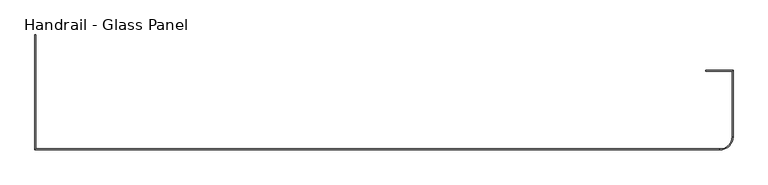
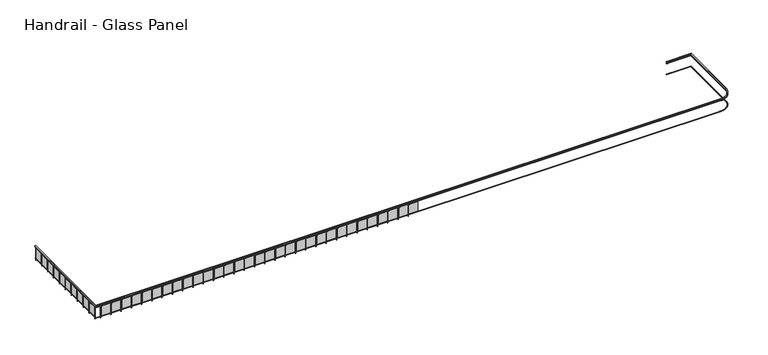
"""IFC4 building model written with IfcOpenShell, lengths in millimetres: railing geometry, Handrail - Glass Panel."""

from ifc_helpers import new_model, si_unit, frame, origin, place, context, project, spatial, polyline, circle_curve, outline, extrude, source, transform, mapped, element, save
from ifc_brep_helpers import plane_surface, cylinder_surface, revolved_surface, advanced_brep


def handrail_glass_panel_15cabfa0(model_context):
    return source(origin(), model_context, "Body", "SolidModel", [
        advanced_brep(
        [(29418.8682249, -11523.4148653, 12764.4), (29418.8682249, -11472.6148653, 12764.4), (29418.8682249, -11472.6148653, 12713.6), (29418.8682249, -11523.4148653, 12713.6), (30911.6134101, -11523.4148653, 12764.4), (30962.4134101, -11472.6148653, 12764.4), (30962.4134101, -11472.6148653, 12713.6), (30911.6134101, -11523.4148653, 12713.6), (30911.6134101, -15222.6148653, 12764.4), (30962.4134101, -15222.6148653, 12764.4), (30962.4134101, -15222.6148653, 12713.6), (30911.6134101, -15222.6148653, 12713.6), (30212.4134101, -15972.6148653, 12764.4), (30212.4134101, -15921.8148653, 12764.4), (30212.4134101, -15972.6148653, 12713.6), (30212.4134101, -15921.8148653, 12713.6), (-8456.7865899, -15921.8148653, 12764.4), (-8507.5865899, -15972.6148653, 12764.4), (-8507.5865899, -15972.6148653, 12713.6), (-8456.7865899, -15921.8148653, 12713.6), (-8456.7865899, -9472.6148653, 12764.4), (-8456.7865899, -9472.6148653, 12713.6), (-8507.5865899, -9472.6148653, 12713.6), (-8507.5865899, -9472.6148653, 12764.4)],
        [
            (0, 1),
            (1, 2),
            (2, 3),
            (3, 0),
            (0, 4),
            (4, 5),
            (5, 1),
            (5, 6),
            (6, 2),
            (6, 7),
            (7, 3),
            (7, 4),
            (4, 8),
            (8, 9),
            (9, 5),
            (9, 10),
            (10, 6),
            (10, 11),
            (11, 7),
            (11, 8),
            (12, 9, circle_curve(frame((30212.4134101, -15222.6148653, 12764.4), z_axis=(0.0, 0.0, 1.0), x_axis=(1.0, 0.0, 0.0)), 750.0)),
            (8, 13, circle_curve(frame((30212.4134101, -15222.6148653, 12764.4), z_axis=(0.0, 0.0, -1.0), x_axis=(1.0, 0.0, 0.0)), 699.2)),
            (13, 12),
            (14, 10, circle_curve(frame((30212.4134101, -15222.6148653, 12713.6), z_axis=(0.0, 0.0, 1.0), x_axis=(1.0, 0.0, 0.0)), 750.0)),
            (12, 14),
            (15, 11, circle_curve(frame((30212.4134101, -15222.6148653, 12713.6), z_axis=(0.0, 0.0, 1.0), x_axis=(1.0, 0.0, 0.0)), 699.2)),
            (14, 15),
            (15, 13),
            (13, 16),
            (16, 17),
            (17, 12),
            (17, 18),
            (18, 14),
            (18, 19),
            (19, 15),
            (19, 16),
            (20, 21),
            (21, 22),
            (22, 23),
            (23, 20),
            (16, 20),
            (23, 17),
            (22, 18),
            (21, 19),
        ],
        [
            plane_surface(frame((29418.8682249, -11498.0148653, 12764.4), z_axis=(-1.0, 0.0, 0.0), x_axis=(0.0, 1.0, 0.0))),
            plane_surface(frame((29418.8682249, -11523.4148653, 12764.4), z_axis=(0.0, 0.0, 1.0), x_axis=(1.0, 0.0, 0.0))),
            plane_surface(frame((29418.8682249, -11472.6148653, 12764.4), z_axis=(0.0, 1.0, 0.0), x_axis=(1.0, 0.0, 0.0))),
            plane_surface(frame((29418.8682249, -11472.6148653, 12713.6), z_axis=(0.0, 0.0, -1.0), x_axis=(1.0, 0.0, 0.0))),
            plane_surface(frame((29418.8682249, -11523.4148653, 12713.6), z_axis=(0.0, -1.0, 0.0), x_axis=(1.0, 0.0, 0.0))),
            plane_surface(frame((30911.6134101, -11523.4148653, 12764.4), z_axis=(0.0, 0.0, 1.0), x_axis=(0.0, -1.0, 0.0))),
            plane_surface(frame((30962.4134101, -11472.6148653, 12764.4), z_axis=(1.0, 0.0, 0.0), x_axis=(0.0, -1.0, 0.0))),
            plane_surface(frame((30962.4134101, -11472.6148653, 12713.6), z_axis=(0.0, 0.0, -1.0), x_axis=(0.0, -1.0, 0.0))),
            plane_surface(frame((30911.6134101, -11523.4148653, 12713.6), z_axis=(-1.0, 0.0, 0.0), x_axis=(0.0, -1.0, 0.0))),
            plane_surface(frame((30212.4134101, -15222.6148653, 12764.4), z_axis=(0.0, 0.0, 1.0), x_axis=(1.0, 0.0, 0.0))),
            cylinder_surface(frame((30212.4134101, -15222.6148653, 12764.4), z_axis=(0.0, 0.0, -1.0), x_axis=(1.0, 0.0, 0.0)), 750.0),
            plane_surface(frame((30212.4134101, -15222.6148653, 12713.6), z_axis=(0.0, 0.0, -1.0), x_axis=(1.0, 0.0, 0.0))),
            revolved_surface(polyline([(30911.613410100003, -15222.6148653, 12713.6), (30911.613410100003, -15222.6148653, 12764.4)]), (30212.4134101, -15222.6148653, 12764.4), (0.0, 0.0, -1.0)),
            plane_surface(frame((30212.4134101, -15921.8148653, 12764.4), z_axis=(0.0, 0.0, 1.0), x_axis=(-1.0, 0.0, 0.0))),
            plane_surface(frame((30212.4134101, -15972.6148653, 12764.4), z_axis=(0.0, -1.0, 0.0), x_axis=(-1.0, 0.0, 0.0))),
            plane_surface(frame((30212.4134101, -15972.6148653, 12713.6), z_axis=(0.0, 0.0, -1.0), x_axis=(-1.0, 0.0, 0.0))),
            plane_surface(frame((30212.4134101, -15921.8148653, 12713.6), z_axis=(0.0, 1.0, 0.0), x_axis=(-1.0, 0.0, 0.0))),
            plane_surface(frame((-8482.1865899, -9472.6148653, 12764.4), z_axis=(0.0, 1.0, 0.0), x_axis=(0.0, 0.0, 1.0))),
            plane_surface(frame((-8456.7865899, -15921.8148653, 12764.4), z_axis=(0.0, 0.0, 1.0), x_axis=(0.0, 1.0, 0.0))),
            plane_surface(frame((-8507.5865899, -15972.6148653, 12764.4), z_axis=(-1.0, 0.0, 0.0), x_axis=(0.0, 1.0, 0.0))),
            plane_surface(frame((-8507.5865899, -15972.6148653, 12713.6), z_axis=(0.0, 0.0, -1.0), x_axis=(0.0, 1.0, 0.0))),
            plane_surface(frame((-8456.7865899, -15921.8148653, 12713.6), z_axis=(1.0, 0.0, 0.0), x_axis=(0.0, 1.0, 0.0))),
        ],
        [
            (0, [[1, 2, 3, 4]]),
            (1, [[-1, 5, 6, 7]]),
            (2, [[-2, -7, 8, 9]]),
            (3, [[-3, -9, 10, 11]]),
            (4, [[-4, -11, 12, -5]]),
            (5, [[-6, 13, 14, 15]]),
            (6, [[-8, -15, 16, 17]]),
            (7, [[-10, -17, 18, 19]]),
            (8, [[-12, -19, 20, -13]]),
            (9, [[21, -14, 22, 23]]),
            (10, [[24, -16, -21, 25]]),
            (11, [[26, -18, -24, 27]]),
            (12, [[-22, -20, -26, 28]]),
            (13, [[-23, 29, 30, 31]]),
            (14, [[-25, -31, 32, 33]]),
            (15, [[-27, -33, 34, 35]]),
            (16, [[-28, -35, 36, -29]]),
            (17, [[37, 38, 39, 40]]),
            (18, [[-30, 41, -40, 42]]),
            (19, [[-32, -42, -39, 43]]),
            (20, [[-34, -43, -38, 44]]),
            (21, [[-36, -44, -37, -41]]),
        ],
    ),
        advanced_brep(
        [(29418.8682249, -11510.7148653, 12662.8), (29418.8682249, -11485.3148653, 12662.8), (29418.8682249, -11485.3148653, 12637.4), (29418.8682249, -11510.7148653, 12637.4), (30924.3134101, -11510.7148653, 12662.8), (30949.7134101, -11485.3148653, 12662.8), (30949.7134101, -11485.3148653, 12637.4), (30924.3134101, -11510.7148653, 12637.4), (30924.3134101, -15222.6148653, 12662.8), (30949.7134101, -15222.6148653, 12662.8), (30949.7134101, -15222.6148653, 12637.4), (30924.3134101, -15222.6148653, 12637.4), (30212.4134101, -15959.9148653, 12662.8), (30212.4134101, -15934.5148653, 12662.8), (30212.4134101, -15959.9148653, 12637.4), (30212.4134101, -15934.5148653, 12637.4), (-8469.4865899, -15934.5148653, 12662.8), (-8494.8865899, -15959.9148653, 12662.8), (-8494.8865899, -15959.9148653, 12637.4), (-8469.4865899, -15934.5148653, 12637.4), (-8469.4865899, -9472.6148653, 12662.8), (-8469.4865899, -9472.6148653, 12637.4), (-8494.8865899, -9472.6148653, 12637.4), (-8494.8865899, -9472.6148653, 12662.8)],
        [
            (0, 1),
            (1, 2),
            (2, 3),
            (3, 0),
            (0, 4),
            (4, 5),
            (5, 1),
            (5, 6),
            (6, 2),
            (6, 7),
            (7, 3),
            (7, 4),
            (4, 8),
            (8, 9),
            (9, 5),
            (9, 10),
            (10, 6),
            (10, 11),
            (11, 7),
            (11, 8),
            (12, 9, circle_curve(frame((30212.4134101, -15222.6148653, 12662.8), z_axis=(0.0, 0.0, 1.0), x_axis=(1.0, 0.0, 0.0)), 737.3)),
            (8, 13, circle_curve(frame((30212.4134101, -15222.6148653, 12662.8), z_axis=(0.0, 0.0, -1.0), x_axis=(1.0, 0.0, 0.0)), 711.9)),
            (13, 12),
            (14, 10, circle_curve(frame((30212.4134101, -15222.6148653, 12637.4), z_axis=(0.0, 0.0, 1.0), x_axis=(1.0, 0.0, 0.0)), 737.3)),
            (12, 14),
            (15, 11, circle_curve(frame((30212.4134101, -15222.6148653, 12637.4), z_axis=(0.0, 0.0, 1.0), x_axis=(1.0, 0.0, 0.0)), 711.9)),
            (14, 15),
            (15, 13),
            (13, 16),
            (16, 17),
            (17, 12),
            (17, 18),
            (18, 14),
            (18, 19),
            (19, 15),
            (19, 16),
            (20, 21),
            (21, 22),
            (22, 23),
            (23, 20),
            (16, 20),
            (23, 17),
            (22, 18),
            (21, 19),
        ],
        [
            plane_surface(frame((29418.8682249, -11498.0148653, 12662.8), z_axis=(-1.0, 0.0, 0.0), x_axis=(0.0, 1.0, 0.0))),
            plane_surface(frame((29418.8682249, -11510.7148653, 12662.8), z_axis=(0.0, 0.0, 1.0), x_axis=(1.0, 0.0, 0.0))),
            plane_surface(frame((29418.8682249, -11485.3148653, 12662.8), z_axis=(0.0, 1.0, 0.0), x_axis=(1.0, 0.0, 0.0))),
            plane_surface(frame((29418.8682249, -11485.3148653, 12637.4), z_axis=(0.0, 0.0, -1.0), x_axis=(1.0, 0.0, 0.0))),
            plane_surface(frame((29418.8682249, -11510.7148653, 12637.4), z_axis=(0.0, -1.0, 0.0), x_axis=(1.0, 0.0, 0.0))),
            plane_surface(frame((30924.3134101, -11510.7148653, 12662.8), z_axis=(0.0, 0.0, 1.0), x_axis=(0.0, -1.0, 0.0))),
            plane_surface(frame((30949.7134101, -11485.3148653, 12662.8), z_axis=(1.0, 0.0, 0.0), x_axis=(0.0, -1.0, 0.0))),
            plane_surface(frame((30949.7134101, -11485.3148653, 12637.4), z_axis=(0.0, 0.0, -1.0), x_axis=(0.0, -1.0, 0.0))),
            plane_surface(frame((30924.3134101, -11510.7148653, 12637.4), z_axis=(-1.0, 0.0, 0.0), x_axis=(0.0, -1.0, 0.0))),
            plane_surface(frame((30212.4134101, -15222.6148653, 12662.8), z_axis=(0.0, 0.0, 1.0), x_axis=(1.0, 0.0, 0.0))),
            cylinder_surface(frame((30212.4134101, -15222.6148653, 12662.8), z_axis=(0.0, 0.0, -1.0), x_axis=(1.0, 0.0, 0.0)), 737.3),
            plane_surface(frame((30212.4134101, -15222.6148653, 12637.4), z_axis=(0.0, 0.0, -1.0), x_axis=(1.0, 0.0, 0.0))),
            revolved_surface(polyline([(30924.313410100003, -15222.6148653, 12637.4), (30924.313410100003, -15222.6148653, 12662.8)]), (30212.4134101, -15222.6148653, 12662.8), (0.0, 0.0, -1.0)),
            plane_surface(frame((30212.4134101, -15934.5148653, 12662.8), z_axis=(0.0, 0.0, 1.0), x_axis=(-1.0, 0.0, 0.0))),
            plane_surface(frame((30212.4134101, -15959.9148653, 12662.8), z_axis=(0.0, -1.0, 0.0), x_axis=(-1.0, 0.0, 0.0))),
            plane_surface(frame((30212.4134101, -15959.9148653, 12637.4), z_axis=(0.0, 0.0, -1.0), x_axis=(-1.0, 0.0, 0.0))),
            plane_surface(frame((30212.4134101, -15934.5148653, 12637.4), z_axis=(0.0, 1.0, 0.0), x_axis=(-1.0, 0.0, 0.0))),
            plane_surface(frame((-8482.1865899, -9472.6148653, 12662.8), z_axis=(0.0, 1.0, 0.0), x_axis=(0.0, 0.0, 1.0))),
            plane_surface(frame((-8469.4865899, -15934.5148653, 12662.8), z_axis=(0.0, 0.0, 1.0), x_axis=(0.0, 1.0, 0.0))),
            plane_surface(frame((-8494.8865899, -15959.9148653, 12662.8), z_axis=(-1.0, 0.0, 0.0), x_axis=(0.0, 1.0, 0.0))),
            plane_surface(frame((-8494.8865899, -15959.9148653, 12637.4), z_axis=(0.0, 0.0, -1.0), x_axis=(0.0, 1.0, 0.0))),
            plane_surface(frame((-8469.4865899, -15934.5148653, 12637.4), z_axis=(1.0, 0.0, 0.0), x_axis=(0.0, 1.0, 0.0))),
        ],
        [
            (0, [[1, 2, 3, 4]]),
            (1, [[-1, 5, 6, 7]]),
            (2, [[-2, -7, 8, 9]]),
            (3, [[-3, -9, 10, 11]]),
            (4, [[-4, -11, 12, -5]]),
            (5, [[-6, 13, 14, 15]]),
            (6, [[-8, -15, 16, 17]]),
            (7, [[-10, -17, 18, 19]]),
            (8, [[-12, -19, 20, -13]]),
            (9, [[21, -14, 22, 23]]),
            (10, [[24, -16, -21, 25]]),
            (11, [[26, -18, -24, 27]]),
            (12, [[-22, -20, -26, 28]]),
            (13, [[-23, 29, 30, 31]]),
            (14, [[-25, -31, 32, 33]]),
            (15, [[-27, -33, 34, 35]]),
            (16, [[-28, -35, 36, -29]]),
            (17, [[37, 38, 39, 40]]),
            (18, [[-30, 41, -40, 42]]),
            (19, [[-32, -42, -39, 43]]),
            (20, [[-34, -43, -38, 44]]),
            (21, [[-36, -44, -37, -41]]),
        ],
    ),
        advanced_brep(
        [(29418.8682249, -11510.7148653, 11951.6), (29418.8682249, -11485.3148653, 11951.6), (29418.8682249, -11485.3148653, 11926.2), (29418.8682249, -11510.7148653, 11926.2), (30924.3134101, -11510.7148653, 11951.6), (30949.7134101, -11485.3148653, 11951.6), (30949.7134101, -11485.3148653, 11926.2), (30924.3134101, -11510.7148653, 11926.2), (30924.3134101, -15222.6148653, 11951.6), (30949.7134101, -15222.6148653, 11951.6), (30949.7134101, -15222.6148653, 11926.2), (30924.3134101, -15222.6148653, 11926.2), (30212.4134101, -15959.9148653, 11951.6), (30212.4134101, -15934.5148653, 11951.6), (30212.4134101, -15959.9148653, 11926.2), (30212.4134101, -15934.5148653, 11926.2), (-8469.4865899, -15934.5148653, 11951.6), (-8494.8865899, -15959.9148653, 11951.6), (-8494.8865899, -15959.9148653, 11926.2), (-8469.4865899, -15934.5148653, 11926.2), (-8469.4865899, -9472.6148653, 11951.6), (-8469.4865899, -9472.6148653, 11926.2), (-8494.8865899, -9472.6148653, 11926.2), (-8494.8865899, -9472.6148653, 11951.6)],
        [
            (0, 1),
            (1, 2),
            (2, 3),
            (3, 0),
            (0, 4),
            (4, 5),
            (5, 1),
            (5, 6),
            (6, 2),
            (6, 7),
            (7, 3),
            (7, 4),
            (4, 8),
            (8, 9),
            (9, 5),
            (9, 10),
            (10, 6),
            (10, 11),
            (11, 7),
            (11, 8),
            (12, 9, circle_curve(frame((30212.4134101, -15222.6148653, 11951.6), z_axis=(0.0, 0.0, 1.0), x_axis=(1.0, 0.0, 0.0)), 737.3)),
            (8, 13, circle_curve(frame((30212.4134101, -15222.6148653, 11951.6), z_axis=(0.0, 0.0, -1.0), x_axis=(1.0, 0.0, 0.0)), 711.9)),
            (13, 12),
            (14, 10, circle_curve(frame((30212.4134101, -15222.6148653, 11926.2), z_axis=(0.0, 0.0, 1.0), x_axis=(1.0, 0.0, 0.0)), 737.3)),
            (12, 14),
            (15, 11, circle_curve(frame((30212.4134101, -15222.6148653, 11926.2), z_axis=(0.0, 0.0, 1.0), x_axis=(1.0, 0.0, 0.0)), 711.9)),
            (14, 15),
            (15, 13),
            (13, 16),
            (16, 17),
            (17, 12),
            (17, 18),
            (18, 14),
            (18, 19),
            (19, 15),
            (19, 16),
            (20, 21),
            (21, 22),
            (22, 23),
            (23, 20),
            (16, 20),
            (23, 17),
            (22, 18),
            (21, 19),
        ],
        [
            plane_surface(frame((29418.8682249, -11498.0148653, 11951.6), z_axis=(-1.0, 0.0, 0.0), x_axis=(0.0, 1.0, 0.0))),
            plane_surface(frame((29418.8682249, -11510.7148653, 11951.6), z_axis=(0.0, 0.0, 1.0), x_axis=(1.0, 0.0, 0.0))),
            plane_surface(frame((29418.8682249, -11485.3148653, 11951.6), z_axis=(0.0, 1.0, 0.0), x_axis=(1.0, 0.0, 0.0))),
            plane_surface(frame((29418.8682249, -11485.3148653, 11926.2), z_axis=(0.0, 0.0, -1.0), x_axis=(1.0, 0.0, 0.0))),
            plane_surface(frame((29418.8682249, -11510.7148653, 11926.2), z_axis=(0.0, -1.0, 0.0), x_axis=(1.0, 0.0, 0.0))),
            plane_surface(frame((30924.3134101, -11510.7148653, 11951.6), z_axis=(0.0, 0.0, 1.0), x_axis=(0.0, -1.0, 0.0))),
            plane_surface(frame((30949.7134101, -11485.3148653, 11951.6), z_axis=(1.0, 0.0, 0.0), x_axis=(0.0, -1.0, 0.0))),
            plane_surface(frame((30949.7134101, -11485.3148653, 11926.2), z_axis=(0.0, 0.0, -1.0), x_axis=(0.0, -1.0, 0.0))),
            plane_surface(frame((30924.3134101, -11510.7148653, 11926.2), z_axis=(-1.0, 0.0, 0.0), x_axis=(0.0, -1.0, 0.0))),
            plane_surface(frame((30212.4134101, -15222.6148653, 11951.6), z_axis=(0.0, 0.0, 1.0), x_axis=(1.0, 0.0, 0.0))),
            cylinder_surface(frame((30212.4134101, -15222.6148653, 11951.6), z_axis=(0.0, 0.0, -1.0), x_axis=(1.0, 0.0, 0.0)), 737.3),
            plane_surface(frame((30212.4134101, -15222.6148653, 11926.2), z_axis=(0.0, 0.0, -1.0), x_axis=(1.0, 0.0, 0.0))),
            revolved_surface(polyline([(30924.313410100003, -15222.6148653, 11926.2), (30924.313410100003, -15222.6148653, 11951.6)]), (30212.4134101, -15222.6148653, 11951.6), (0.0, 0.0, -1.0)),
            plane_surface(frame((30212.4134101, -15934.5148653, 11951.6), z_axis=(0.0, 0.0, 1.0), x_axis=(-1.0, 0.0, 0.0))),
            plane_surface(frame((30212.4134101, -15959.9148653, 11951.6), z_axis=(0.0, -1.0, 0.0), x_axis=(-1.0, 0.0, 0.0))),
            plane_surface(frame((30212.4134101, -15959.9148653, 11926.2), z_axis=(0.0, 0.0, -1.0), x_axis=(-1.0, 0.0, 0.0))),
            plane_surface(frame((30212.4134101, -15934.5148653, 11926.2), z_axis=(0.0, 1.0, 0.0), x_axis=(-1.0, 0.0, 0.0))),
            plane_surface(frame((-8482.1865899, -9472.6148653, 11951.6), z_axis=(0.0, 1.0, 0.0), x_axis=(0.0, 0.0, 1.0))),
            plane_surface(frame((-8469.4865899, -15934.5148653, 11951.6), z_axis=(0.0, 0.0, 1.0), x_axis=(0.0, 1.0, 0.0))),
            plane_surface(frame((-8494.8865899, -15959.9148653, 11951.6), z_axis=(-1.0, 0.0, 0.0), x_axis=(0.0, 1.0, 0.0))),
            plane_surface(frame((-8494.8865899, -15959.9148653, 11926.2), z_axis=(0.0, 0.0, -1.0), x_axis=(0.0, 1.0, 0.0))),
            plane_surface(frame((-8469.4865899, -15934.5148653, 11926.2), z_axis=(1.0, 0.0, 0.0), x_axis=(0.0, 1.0, 0.0))),
        ],
        [
            (0, [[1, 2, 3, 4]]),
            (1, [[-1, 5, 6, 7]]),
            (2, [[-2, -7, 8, 9]]),
            (3, [[-3, -9, 10, 11]]),
            (4, [[-4, -11, 12, -5]]),
            (5, [[-6, 13, 14, 15]]),
            (6, [[-8, -15, 16, 17]]),
            (7, [[-10, -17, 18, 19]]),
            (8, [[-12, -19, 20, -13]]),
            (9, [[21, -14, 22, 23]]),
            (10, [[24, -16, -21, 25]]),
            (11, [[26, -18, -24, 27]]),
            (12, [[-22, -20, -26, 28]]),
            (13, [[-23, 29, 30, 31]]),
            (14, [[-25, -31, 32, 33]]),
            (15, [[-27, -33, 34, 35]]),
            (16, [[-28, -35, 36, -29]]),
            (17, [[37, 38, 39, 40]]),
            (18, [[-30, 41, -40, 42]]),
            (19, [[-32, -42, -39, 43]]),
            (20, [[-34, -43, -38, 44]]),
            (21, [[-36, -44, -37, -41]]),
        ],
    ),
        extrude(outline(polyline([(-8472.6615899, -9544.4398653), (-8491.7115899, -9544.4398653), (-8491.7115899, -9525.3898653), (-8472.6615899, -9525.3898653), (-8472.6615899, -9544.4398653)])), frame((0.0, 0.0, 11850.0), z_axis=(0.0, 0.0, 1.0), x_axis=(1.0, 0.0, 0.0)), (0.0, 0.0, 1.0), 863.6),
        extrude(outline(polyline([(-8488.5365899, -10131.8148653), (-8488.5365899, -9573.0148653), (-8482.1865899, -9573.0148653), (-8482.1865899, -10131.8148653), (-8488.5365899, -10131.8148653)])), frame((0.0, 0.0, 11977.0), z_axis=(0.0, 0.0, 1.0), x_axis=(1.0, 0.0, 0.0)), (0.0, 0.0, 1.0), 635.0),
        extrude(outline(polyline([(-8472.6615899, -10179.4398653), (-8491.7115899, -10179.4398653), (-8491.7115899, -10160.3898653), (-8472.6615899, -10160.3898653), (-8472.6615899, -10179.4398653)])), frame((0.0, 0.0, 11850.0), z_axis=(0.0, 0.0, 1.0), x_axis=(1.0, 0.0, 0.0)), (0.0, 0.0, 1.0), 863.6),
        extrude(outline(polyline([(-8488.5365899, -10766.8148653), (-8488.5365899, -10208.0148653), (-8482.1865899, -10208.0148653), (-8482.1865899, -10766.8148653), (-8488.5365899, -10766.8148653)])), frame((0.0, 0.0, 11977.0), z_axis=(0.0, 0.0, 1.0), x_axis=(1.0, 0.0, 0.0)), (0.0, 0.0, 1.0), 635.0),
        extrude(outline(polyline([(-8472.6615899, -10814.4398653), (-8491.7115899, -10814.4398653), (-8491.7115899, -10795.3898653), (-8472.6615899, -10795.3898653), (-8472.6615899, -10814.4398653)])), frame((0.0, 0.0, 11850.0), z_axis=(0.0, 0.0, 1.0), x_axis=(1.0, 0.0, 0.0)), (0.0, 0.0, 1.0), 863.6),
        extrude(outline(polyline([(-8488.5365899, -11401.8148653), (-8488.5365899, -10843.0148653), (-8482.1865899, -10843.0148653), (-8482.1865899, -11401.8148653), (-8488.5365899, -11401.8148653)])), frame((0.0, 0.0, 11977.0), z_axis=(0.0, 0.0, 1.0), x_axis=(1.0, 0.0, 0.0)), (0.0, 0.0, 1.0), 635.0),
        extrude(outline(polyline([(-8472.6615899, -11449.4398653), (-8491.7115899, -11449.4398653), (-8491.7115899, -11430.3898653), (-8472.6615899, -11430.3898653), (-8472.6615899, -11449.4398653)])), frame((0.0, 0.0, 11850.0), z_axis=(0.0, 0.0, 1.0), x_axis=(1.0, 0.0, 0.0)), (0.0, 0.0, 1.0), 863.6),
        extrude(outline(polyline([(-8488.5365899, -12036.8148653), (-8488.5365899, -11478.0148653), (-8482.1865899, -11478.0148653), (-8482.1865899, -12036.8148653), (-8488.5365899, -12036.8148653)])), frame((0.0, 0.0, 11977.0), z_axis=(0.0, 0.0, 1.0), x_axis=(1.0, 0.0, 0.0)), (0.0, 0.0, 1.0), 635.0),
        extrude(outline(polyline([(-8472.6615899, -12084.4398653), (-8491.7115899, -12084.4398653), (-8491.7115899, -12065.3898653), (-8472.6615899, -12065.3898653), (-8472.6615899, -12084.4398653)])), frame((0.0, 0.0, 11850.0), z_axis=(0.0, 0.0, 1.0), x_axis=(1.0, 0.0, 0.0)), (0.0, 0.0, 1.0), 863.6),
        extrude(outline(polyline([(-8488.5365899, -12671.8148653), (-8488.5365899, -12113.0148653), (-8482.1865899, -12113.0148653), (-8482.1865899, -12671.8148653), (-8488.5365899, -12671.8148653)])), frame((0.0, 0.0, 11977.0), z_axis=(0.0, 0.0, 1.0), x_axis=(1.0, 0.0, 0.0)), (0.0, 0.0, 1.0), 635.0),
        extrude(outline(polyline([(-8472.6615899, -12719.4398653), (-8491.7115899, -12719.4398653), (-8491.7115899, -12700.3898653), (-8472.6615899, -12700.3898653), (-8472.6615899, -12719.4398653)])), frame((0.0, 0.0, 11850.0), z_axis=(0.0, 0.0, 1.0), x_axis=(1.0, 0.0, 0.0)), (0.0, 0.0, 1.0), 863.6),
        extrude(outline(polyline([(-8488.5365899, -13306.8148653), (-8488.5365899, -12748.0148653), (-8482.1865899, -12748.0148653), (-8482.1865899, -13306.8148653), (-8488.5365899, -13306.8148653)])), frame((0.0, 0.0, 11977.0), z_axis=(0.0, 0.0, 1.0), x_axis=(1.0, 0.0, 0.0)), (0.0, 0.0, 1.0), 635.0),
        extrude(outline(polyline([(-8472.6615899, -13354.4398653), (-8491.7115899, -13354.4398653), (-8491.7115899, -13335.3898653), (-8472.6615899, -13335.3898653), (-8472.6615899, -13354.4398653)])), frame((0.0, 0.0, 11850.0), z_axis=(0.0, 0.0, 1.0), x_axis=(1.0, 0.0, 0.0)), (0.0, 0.0, 1.0), 863.6),
        extrude(outline(polyline([(-8488.5365899, -13941.8148653), (-8488.5365899, -13383.0148653), (-8482.1865899, -13383.0148653), (-8482.1865899, -13941.8148653), (-8488.5365899, -13941.8148653)])), frame((0.0, 0.0, 11977.0), z_axis=(0.0, 0.0, 1.0), x_axis=(1.0, 0.0, 0.0)), (0.0, 0.0, 1.0), 635.0),
        extrude(outline(polyline([(-8472.6615899, -13989.4398653), (-8491.7115899, -13989.4398653), (-8491.7115899, -13970.3898653), (-8472.6615899, -13970.3898653), (-8472.6615899, -13989.4398653)])), frame((0.0, 0.0, 11850.0), z_axis=(0.0, 0.0, 1.0), x_axis=(1.0, 0.0, 0.0)), (0.0, 0.0, 1.0), 863.6),
        extrude(outline(polyline([(-8488.5365899, -14576.8148653), (-8488.5365899, -14018.0148653), (-8482.1865899, -14018.0148653), (-8482.1865899, -14576.8148653), (-8488.5365899, -14576.8148653)])), frame((0.0, 0.0, 11977.0), z_axis=(0.0, 0.0, 1.0), x_axis=(1.0, 0.0, 0.0)), (0.0, 0.0, 1.0), 635.0),
        extrude(outline(polyline([(-8472.6615899, -14624.4398653), (-8491.7115899, -14624.4398653), (-8491.7115899, -14605.3898653), (-8472.6615899, -14605.3898653), (-8472.6615899, -14624.4398653)])), frame((0.0, 0.0, 11850.0), z_axis=(0.0, 0.0, 1.0), x_axis=(1.0, 0.0, 0.0)), (0.0, 0.0, 1.0), 863.6),
        extrude(outline(polyline([(-8488.5365899, -15211.8148653), (-8488.5365899, -14653.0148653), (-8482.1865899, -14653.0148653), (-8482.1865899, -15211.8148653), (-8488.5365899, -15211.8148653)])), frame((0.0, 0.0, 11977.0), z_axis=(0.0, 0.0, 1.0), x_axis=(1.0, 0.0, 0.0)), (0.0, 0.0, 1.0), 635.0),
        extrude(outline(polyline([(-8472.6615899, -15259.4398653), (-8491.7115899, -15259.4398653), (-8491.7115899, -15240.3898653), (-8472.6615899, -15240.3898653), (-8472.6615899, -15259.4398653)])), frame((0.0, 0.0, 11850.0), z_axis=(0.0, 0.0, 1.0), x_axis=(1.0, 0.0, 0.0)), (0.0, 0.0, 1.0), 863.6),
        extrude(outline(polyline([(-8488.5365899, -15846.8148653), (-8488.5365899, -15288.0148653), (-8482.1865899, -15288.0148653), (-8482.1865899, -15846.8148653), (-8488.5365899, -15846.8148653)])), frame((0.0, 0.0, 11977.0), z_axis=(0.0, 0.0, 1.0), x_axis=(1.0, 0.0, 0.0)), (0.0, 0.0, 1.0), 635.0),
        extrude(outline(polyline([(-8472.6615899, -15894.4398653), (-8491.7115899, -15894.4398653), (-8491.7115899, -15875.3898653), (-8472.6615899, -15875.3898653), (-8472.6615899, -15894.4398653)])), frame((0.0, 0.0, 11850.0), z_axis=(0.0, 0.0, 1.0), x_axis=(1.0, 0.0, 0.0)), (0.0, 0.0, 1.0), 863.6),
        extrude(outline(polyline([(-8175.3615899, -15937.6898653), (-8175.3615899, -15956.7398653), (-8194.4115899, -15956.7398653), (-8194.4115899, -15937.6898653), (-8175.3615899, -15937.6898653)])), frame((0.0, 0.0, 11850.0), z_axis=(0.0, 0.0, 1.0), x_axis=(1.0, 0.0, 0.0)), (0.0, 0.0, 1.0), 863.6),
        extrude(outline(polyline([(-7587.9865899, -15953.5648653), (-8146.7865899, -15953.5648653), (-8146.7865899, -15947.2148653), (-7587.9865899, -15947.2148653), (-7587.9865899, -15953.5648653)])), frame((0.0, 0.0, 11977.0), z_axis=(0.0, 0.0, 1.0), x_axis=(1.0, 0.0, 0.0)), (0.0, 0.0, 1.0), 635.0),
        extrude(outline(polyline([(-7540.3615899, -15937.6898653), (-7540.3615899, -15956.7398653), (-7559.4115899, -15956.7398653), (-7559.4115899, -15937.6898653), (-7540.3615899, -15937.6898653)])), frame((0.0, 0.0, 11850.0), z_axis=(0.0, 0.0, 1.0), x_axis=(1.0, 0.0, 0.0)), (0.0, 0.0, 1.0), 863.6),
        extrude(outline(polyline([(-6952.9865899, -15953.5648653), (-7511.7865899, -15953.5648653), (-7511.7865899, -15947.2148653), (-6952.9865899, -15947.2148653), (-6952.9865899, -15953.5648653)])), frame((0.0, 0.0, 11977.0), z_axis=(0.0, 0.0, 1.0), x_axis=(1.0, 0.0, 0.0)), (0.0, 0.0, 1.0), 635.0),
        extrude(outline(polyline([(-6905.3615899, -15937.6898653), (-6905.3615899, -15956.7398653), (-6924.4115899, -15956.7398653), (-6924.4115899, -15937.6898653), (-6905.3615899, -15937.6898653)])), frame((0.0, 0.0, 11850.0), z_axis=(0.0, 0.0, 1.0), x_axis=(1.0, 0.0, 0.0)), (0.0, 0.0, 1.0), 863.6),
        extrude(outline(polyline([(-6317.9865899, -15953.5648653), (-6876.7865899, -15953.5648653), (-6876.7865899, -15947.2148653), (-6317.9865899, -15947.2148653), (-6317.9865899, -15953.5648653)])), frame((0.0, 0.0, 11977.0), z_axis=(0.0, 0.0, 1.0), x_axis=(1.0, 0.0, 0.0)), (0.0, 0.0, 1.0), 635.0),
        extrude(outline(polyline([(-6270.3615899, -15937.6898653), (-6270.3615899, -15956.7398653), (-6289.4115899, -15956.7398653), (-6289.4115899, -15937.6898653), (-6270.3615899, -15937.6898653)])), frame((0.0, 0.0, 11850.0), z_axis=(0.0, 0.0, 1.0), x_axis=(1.0, 0.0, 0.0)), (0.0, 0.0, 1.0), 863.6),
        extrude(outline(polyline([(-5682.9865899, -15953.5648653), (-6241.7865899, -15953.5648653), (-6241.7865899, -15947.2148653), (-5682.9865899, -15947.2148653), (-5682.9865899, -15953.5648653)])), frame((0.0, 0.0, 11977.0), z_axis=(0.0, 0.0, 1.0), x_axis=(1.0, 0.0, 0.0)), (0.0, 0.0, 1.0), 635.0),
        extrude(outline(polyline([(-5635.3615899, -15937.6898653), (-5635.3615899, -15956.7398653), (-5654.4115899, -15956.7398653), (-5654.4115899, -15937.6898653), (-5635.3615899, -15937.6898653)])), frame((0.0, 0.0, 11850.0), z_axis=(0.0, 0.0, 1.0), x_axis=(1.0, 0.0, 0.0)), (0.0, 0.0, 1.0), 863.6),
        extrude(outline(polyline([(-5047.9865899, -15953.5648653), (-5606.7865899, -15953.5648653), (-5606.7865899, -15947.2148653), (-5047.9865899, -15947.2148653), (-5047.9865899, -15953.5648653)])), frame((0.0, 0.0, 11977.0), z_axis=(0.0, 0.0, 1.0), x_axis=(1.0, 0.0, 0.0)), (0.0, 0.0, 1.0), 635.0),
        extrude(outline(polyline([(-5000.3615899, -15937.6898653), (-5000.3615899, -15956.7398653), (-5019.4115899, -15956.7398653), (-5019.4115899, -15937.6898653), (-5000.3615899, -15937.6898653)])), frame((0.0, 0.0, 11850.0), z_axis=(0.0, 0.0, 1.0), x_axis=(1.0, 0.0, 0.0)), (0.0, 0.0, 1.0), 863.6),
        extrude(outline(polyline([(-4412.9865899, -15953.5648653), (-4971.7865899, -15953.5648653), (-4971.7865899, -15947.2148653), (-4412.9865899, -15947.2148653), (-4412.9865899, -15953.5648653)])), frame((0.0, 0.0, 11977.0), z_axis=(0.0, 0.0, 1.0), x_axis=(1.0, 0.0, 0.0)), (0.0, 0.0, 1.0), 635.0),
        extrude(outline(polyline([(-4365.3615899, -15937.6898653), (-4365.3615899, -15956.7398653), (-4384.4115899, -15956.7398653), (-4384.4115899, -15937.6898653), (-4365.3615899, -15937.6898653)])), frame((0.0, 0.0, 11850.0), z_axis=(0.0, 0.0, 1.0), x_axis=(1.0, 0.0, 0.0)), (0.0, 0.0, 1.0), 863.6),
        extrude(outline(polyline([(-3777.9865899, -15953.5648653), (-4336.7865899, -15953.5648653), (-4336.7865899, -15947.2148653), (-3777.9865899, -15947.2148653), (-3777.9865899, -15953.5648653)])), frame((0.0, 0.0, 11977.0), z_axis=(0.0, 0.0, 1.0), x_axis=(1.0, 0.0, 0.0)), (0.0, 0.0, 1.0), 635.0),
        extrude(outline(polyline([(-3730.3615899, -15937.6898653), (-3730.3615899, -15956.7398653), (-3749.4115899, -15956.7398653), (-3749.4115899, -15937.6898653), (-3730.3615899, -15937.6898653)])), frame((0.0, 0.0, 11850.0), z_axis=(0.0, 0.0, 1.0), x_axis=(1.0, 0.0, 0.0)), (0.0, 0.0, 1.0), 863.6),
        extrude(outline(polyline([(-3142.9865899, -15953.5648653), (-3701.7865899, -15953.5648653), (-3701.7865899, -15947.2148653), (-3142.9865899, -15947.2148653), (-3142.9865899, -15953.5648653)])), frame((0.0, 0.0, 11977.0), z_axis=(0.0, 0.0, 1.0), x_axis=(1.0, 0.0, 0.0)), (0.0, 0.0, 1.0), 635.0),
        extrude(outline(polyline([(-3095.3615899, -15937.6898653), (-3095.3615899, -15956.7398653), (-3114.4115899, -15956.7398653), (-3114.4115899, -15937.6898653), (-3095.3615899, -15937.6898653)])), frame((0.0, 0.0, 11850.0), z_axis=(0.0, 0.0, 1.0), x_axis=(1.0, 0.0, 0.0)), (0.0, 0.0, 1.0), 863.6),
        extrude(outline(polyline([(-2507.9865899, -15953.5648653), (-3066.7865899, -15953.5648653), (-3066.7865899, -15947.2148653), (-2507.9865899, -15947.2148653), (-2507.9865899, -15953.5648653)])), frame((0.0, 0.0, 11977.0), z_axis=(0.0, 0.0, 1.0), x_axis=(1.0, 0.0, 0.0)), (0.0, 0.0, 1.0), 635.0),
        extrude(outline(polyline([(-2460.3615899, -15937.6898653), (-2460.3615899, -15956.7398653), (-2479.4115899, -15956.7398653), (-2479.4115899, -15937.6898653), (-2460.3615899, -15937.6898653)])), frame((0.0, 0.0, 11850.0), z_axis=(0.0, 0.0, 1.0), x_axis=(1.0, 0.0, 0.0)), (0.0, 0.0, 1.0), 863.6),
        extrude(outline(polyline([(-1872.9865899, -15953.5648653), (-2431.7865899, -15953.5648653), (-2431.7865899, -15947.2148653), (-1872.9865899, -15947.2148653), (-1872.9865899, -15953.5648653)])), frame((0.0, 0.0, 11977.0), z_axis=(0.0, 0.0, 1.0), x_axis=(1.0, 0.0, 0.0)), (0.0, 0.0, 1.0), 635.0),
        extrude(outline(polyline([(-1825.3615899, -15937.6898653), (-1825.3615899, -15956.7398653), (-1844.4115899, -15956.7398653), (-1844.4115899, -15937.6898653), (-1825.3615899, -15937.6898653)])), frame((0.0, 0.0, 11850.0), z_axis=(0.0, 0.0, 1.0), x_axis=(1.0, 0.0, 0.0)), (0.0, 0.0, 1.0), 863.6),
        extrude(outline(polyline([(-1237.9865899, -15953.5648653), (-1796.7865899, -15953.5648653), (-1796.7865899, -15947.2148653), (-1237.9865899, -15947.2148653), (-1237.9865899, -15953.5648653)])), frame((0.0, 0.0, 11977.0), z_axis=(0.0, 0.0, 1.0), x_axis=(1.0, 0.0, 0.0)), (0.0, 0.0, 1.0), 635.0),
        extrude(outline(polyline([(-1190.3615899, -15937.6898653), (-1190.3615899, -15956.7398653), (-1209.4115899, -15956.7398653), (-1209.4115899, -15937.6898653), (-1190.3615899, -15937.6898653)])), frame((0.0, 0.0, 11850.0), z_axis=(0.0, 0.0, 1.0), x_axis=(1.0, 0.0, 0.0)), (0.0, 0.0, 1.0), 863.6),
        extrude(outline(polyline([(-602.9865899, -15953.5648653), (-1161.7865899, -15953.5648653), (-1161.7865899, -15947.2148653), (-602.9865899, -15947.2148653), (-602.9865899, -15953.5648653)])), frame((0.0, 0.0, 11977.0), z_axis=(0.0, 0.0, 1.0), x_axis=(1.0, 0.0, 0.0)), (0.0, 0.0, 1.0), 635.0),
        extrude(outline(polyline([(-555.3615899, -15937.6898653), (-555.3615899, -15956.7398653), (-574.4115899, -15956.7398653), (-574.4115899, -15937.6898653), (-555.3615899, -15937.6898653)])), frame((0.0, 0.0, 11850.0), z_axis=(0.0, 0.0, 1.0), x_axis=(1.0, 0.0, 0.0)), (0.0, 0.0, 1.0), 863.6),
        extrude(outline(polyline([(32.0134101, -15953.5648653), (-526.7865899, -15953.5648653), (-526.7865899, -15947.2148653), (32.0134101, -15947.2148653), (32.0134101, -15953.5648653)])), frame((0.0, 0.0, 11977.0), z_axis=(0.0, 0.0, 1.0), x_axis=(1.0, 0.0, 0.0)), (0.0, 0.0, 1.0), 635.0),
        extrude(outline(polyline([(79.6384101, -15937.6898653), (79.6384101, -15956.7398653), (60.5884101, -15956.7398653), (60.5884101, -15937.6898653), (79.6384101, -15937.6898653)])), frame((0.0, 0.0, 11850.0), z_axis=(0.0, 0.0, 1.0), x_axis=(1.0, 0.0, 0.0)), (0.0, 0.0, 1.0), 863.6),
        extrude(outline(polyline([(667.0134101, -15953.5648653), (108.2134101, -15953.5648653), (108.2134101, -15947.2148653), (667.0134101, -15947.2148653), (667.0134101, -15953.5648653)])), frame((0.0, 0.0, 11977.0), z_axis=(0.0, 0.0, 1.0), x_axis=(1.0, 0.0, 0.0)), (0.0, 0.0, 1.0), 635.0),
        extrude(outline(polyline([(714.6384101, -15937.6898653), (714.6384101, -15956.7398653), (695.5884101, -15956.7398653), (695.5884101, -15937.6898653), (714.6384101, -15937.6898653)])), frame((0.0, 0.0, 11850.0), z_axis=(0.0, 0.0, 1.0), x_axis=(1.0, 0.0, 0.0)), (0.0, 0.0, 1.0), 863.6),
        extrude(outline(polyline([(1302.0134101, -15953.5648653), (743.2134101, -15953.5648653), (743.2134101, -15947.2148653), (1302.0134101, -15947.2148653), (1302.0134101, -15953.5648653)])), frame((0.0, 0.0, 11977.0), z_axis=(0.0, 0.0, 1.0), x_axis=(1.0, 0.0, 0.0)), (0.0, 0.0, 1.0), 635.0),
        extrude(outline(polyline([(1349.6384101, -15937.6898653), (1349.6384101, -15956.7398653), (1330.5884101, -15956.7398653), (1330.5884101, -15937.6898653), (1349.6384101, -15937.6898653)])), frame((0.0, 0.0, 11850.0), z_axis=(0.0, 0.0, 1.0), x_axis=(1.0, 0.0, 0.0)), (0.0, 0.0, 1.0), 863.6),
        extrude(outline(polyline([(1937.0134101, -15953.5648653), (1378.2134101, -15953.5648653), (1378.2134101, -15947.2148653), (1937.0134101, -15947.2148653), (1937.0134101, -15953.5648653)])), frame((0.0, 0.0, 11977.0), z_axis=(0.0, 0.0, 1.0), x_axis=(1.0, 0.0, 0.0)), (0.0, 0.0, 1.0), 635.0),
        extrude(outline(polyline([(1984.6384101, -15937.6898653), (1984.6384101, -15956.7398653), (1965.5884101, -15956.7398653), (1965.5884101, -15937.6898653), (1984.6384101, -15937.6898653)])), frame((0.0, 0.0, 11850.0), z_axis=(0.0, 0.0, 1.0), x_axis=(1.0, 0.0, 0.0)), (0.0, 0.0, 1.0), 863.6),
        extrude(outline(polyline([(2572.0134101, -15953.5648653), (2013.2134101, -15953.5648653), (2013.2134101, -15947.2148653), (2572.0134101, -15947.2148653), (2572.0134101, -15953.5648653)])), frame((0.0, 0.0, 11977.0), z_axis=(0.0, 0.0, 1.0), x_axis=(1.0, 0.0, 0.0)), (0.0, 0.0, 1.0), 635.0),
        extrude(outline(polyline([(2619.6384101, -15937.6898653), (2619.6384101, -15956.7398653), (2600.5884101, -15956.7398653), (2600.5884101, -15937.6898653), (2619.6384101, -15937.6898653)])), frame((0.0, 0.0, 11850.0), z_axis=(0.0, 0.0, 1.0), x_axis=(1.0, 0.0, 0.0)), (0.0, 0.0, 1.0), 863.6),
        extrude(outline(polyline([(3207.0134101, -15953.5648653), (2648.2134101, -15953.5648653), (2648.2134101, -15947.2148653), (3207.0134101, -15947.2148653), (3207.0134101, -15953.5648653)])), frame((0.0, 0.0, 11977.0), z_axis=(0.0, 0.0, 1.0), x_axis=(1.0, 0.0, 0.0)), (0.0, 0.0, 1.0), 635.0),
        extrude(outline(polyline([(3254.6384101, -15937.6898653), (3254.6384101, -15956.7398653), (3235.5884101, -15956.7398653), (3235.5884101, -15937.6898653), (3254.6384101, -15937.6898653)])), frame((0.0, 0.0, 11850.0), z_axis=(0.0, 0.0, 1.0), x_axis=(1.0, 0.0, 0.0)), (0.0, 0.0, 1.0), 863.6),
        extrude(outline(polyline([(3842.0134101, -15953.5648653), (3283.2134101, -15953.5648653), (3283.2134101, -15947.2148653), (3842.0134101, -15947.2148653), (3842.0134101, -15953.5648653)])), frame((0.0, 0.0, 11977.0), z_axis=(0.0, 0.0, 1.0), x_axis=(1.0, 0.0, 0.0)), (0.0, 0.0, 1.0), 635.0),
        extrude(outline(polyline([(3889.6384101, -15937.6898653), (3889.6384101, -15956.7398653), (3870.5884101, -15956.7398653), (3870.5884101, -15937.6898653), (3889.6384101, -15937.6898653)])), frame((0.0, 0.0, 11850.0), z_axis=(0.0, 0.0, 1.0), x_axis=(1.0, 0.0, 0.0)), (0.0, 0.0, 1.0), 863.6),
        extrude(outline(polyline([(4477.0134101, -15953.5648653), (3918.2134101, -15953.5648653), (3918.2134101, -15947.2148653), (4477.0134101, -15947.2148653), (4477.0134101, -15953.5648653)])), frame((0.0, 0.0, 11977.0), z_axis=(0.0, 0.0, 1.0), x_axis=(1.0, 0.0, 0.0)), (0.0, 0.0, 1.0), 635.0),
        extrude(outline(polyline([(4524.6384101, -15937.6898653), (4524.6384101, -15956.7398653), (4505.5884101, -15956.7398653), (4505.5884101, -15937.6898653), (4524.6384101, -15937.6898653)])), frame((0.0, 0.0, 11850.0), z_axis=(0.0, 0.0, 1.0), x_axis=(1.0, 0.0, 0.0)), (0.0, 0.0, 1.0), 863.6),
        extrude(outline(polyline([(5112.0134101, -15953.5648653), (4553.2134101, -15953.5648653), (4553.2134101, -15947.2148653), (5112.0134101, -15947.2148653), (5112.0134101, -15953.5648653)])), frame((0.0, 0.0, 11977.0), z_axis=(0.0, 0.0, 1.0), x_axis=(1.0, 0.0, 0.0)), (0.0, 0.0, 1.0), 635.0),
        extrude(outline(polyline([(5159.6384101, -15937.6898653), (5159.6384101, -15956.7398653), (5140.5884101, -15956.7398653), (5140.5884101, -15937.6898653), (5159.6384101, -15937.6898653)])), frame((0.0, 0.0, 11850.0), z_axis=(0.0, 0.0, 1.0), x_axis=(1.0, 0.0, 0.0)), (0.0, 0.0, 1.0), 863.6),
        extrude(outline(polyline([(5747.0134101, -15953.5648653), (5188.2134101, -15953.5648653), (5188.2134101, -15947.2148653), (5747.0134101, -15947.2148653), (5747.0134101, -15953.5648653)])), frame((0.0, 0.0, 11977.0), z_axis=(0.0, 0.0, 1.0), x_axis=(1.0, 0.0, 0.0)), (0.0, 0.0, 1.0), 635.0),
        extrude(outline(polyline([(5794.6384101, -15937.6898653), (5794.6384101, -15956.7398653), (5775.5884101, -15956.7398653), (5775.5884101, -15937.6898653), (5794.6384101, -15937.6898653)])), frame((0.0, 0.0, 11850.0), z_axis=(0.0, 0.0, 1.0), x_axis=(1.0, 0.0, 0.0)), (0.0, 0.0, 1.0), 863.6),
        extrude(outline(polyline([(6382.0134101, -15953.5648653), (5823.2134101, -15953.5648653), (5823.2134101, -15947.2148653), (6382.0134101, -15947.2148653), (6382.0134101, -15953.5648653)])), frame((0.0, 0.0, 11977.0), z_axis=(0.0, 0.0, 1.0), x_axis=(1.0, 0.0, 0.0)), (0.0, 0.0, 1.0), 635.0),
        extrude(outline(polyline([(6429.6384101, -15937.6898653), (6429.6384101, -15956.7398653), (6410.5884101, -15956.7398653), (6410.5884101, -15937.6898653), (6429.6384101, -15937.6898653)])), frame((0.0, 0.0, 11850.0), z_axis=(0.0, 0.0, 1.0), x_axis=(1.0, 0.0, 0.0)), (0.0, 0.0, 1.0), 863.6),
        extrude(outline(polyline([(7017.0134101, -15953.5648653), (6458.2134101, -15953.5648653), (6458.2134101, -15947.2148653), (7017.0134101, -15947.2148653), (7017.0134101, -15953.5648653)])), frame((0.0, 0.0, 11977.0), z_axis=(0.0, 0.0, 1.0), x_axis=(1.0, 0.0, 0.0)), (0.0, 0.0, 1.0), 635.0),
        extrude(outline(polyline([(7064.6384101, -15937.6898653), (7064.6384101, -15956.7398653), (7045.5884101, -15956.7398653), (7045.5884101, -15937.6898653), (7064.6384101, -15937.6898653)])), frame((0.0, 0.0, 11850.0), z_axis=(0.0, 0.0, 1.0), x_axis=(1.0, 0.0, 0.0)), (0.0, 0.0, 1.0), 863.6),
        extrude(outline(polyline([(7652.0134101, -15953.5648653), (7093.2134101, -15953.5648653), (7093.2134101, -15947.2148653), (7652.0134101, -15947.2148653), (7652.0134101, -15953.5648653)])), frame((0.0, 0.0, 11977.0), z_axis=(0.0, 0.0, 1.0), x_axis=(1.0, 0.0, 0.0)), (0.0, 0.0, 1.0), 635.0),
        extrude(outline(polyline([(7699.6384101, -15937.6898653), (7699.6384101, -15956.7398653), (7680.5884101, -15956.7398653), (7680.5884101, -15937.6898653), (7699.6384101, -15937.6898653)])), frame((0.0, 0.0, 11850.0), z_axis=(0.0, 0.0, 1.0), x_axis=(1.0, 0.0, 0.0)), (0.0, 0.0, 1.0), 863.6),
        extrude(outline(polyline([(8287.0134101, -15953.5648653), (7728.2134101, -15953.5648653), (7728.2134101, -15947.2148653), (8287.0134101, -15947.2148653), (8287.0134101, -15953.5648653)])), frame((0.0, 0.0, 11977.0), z_axis=(0.0, 0.0, 1.0), x_axis=(1.0, 0.0, 0.0)), (0.0, 0.0, 1.0), 635.0),
        extrude(outline(polyline([(8334.6384101, -15937.6898653), (8334.6384101, -15956.7398653), (8315.5884101, -15956.7398653), (8315.5884101, -15937.6898653), (8334.6384101, -15937.6898653)])), frame((0.0, 0.0, 11850.0), z_axis=(0.0, 0.0, 1.0), x_axis=(1.0, 0.0, 0.0)), (0.0, 0.0, 1.0), 863.6),
        extrude(outline(polyline([(8922.0134101, -15953.5648653), (8363.2134101, -15953.5648653), (8363.2134101, -15947.2148653), (8922.0134101, -15947.2148653), (8922.0134101, -15953.5648653)])), frame((0.0, 0.0, 11977.0), z_axis=(0.0, 0.0, 1.0), x_axis=(1.0, 0.0, 0.0)), (0.0, 0.0, 1.0), 635.0),
        extrude(outline(polyline([(8969.6384101, -15937.6898653), (8969.6384101, -15956.7398653), (8950.5884101, -15956.7398653), (8950.5884101, -15937.6898653), (8969.6384101, -15937.6898653)])), frame((0.0, 0.0, 11850.0), z_axis=(0.0, 0.0, 1.0), x_axis=(1.0, 0.0, 0.0)), (0.0, 0.0, 1.0), 863.6),
        extrude(outline(polyline([(9557.0134101, -15953.5648653), (8998.2134101, -15953.5648653), (8998.2134101, -15947.2148653), (9557.0134101, -15947.2148653), (9557.0134101, -15953.5648653)])), frame((0.0, 0.0, 11977.0), z_axis=(0.0, 0.0, 1.0), x_axis=(1.0, 0.0, 0.0)), (0.0, 0.0, 1.0), 635.0),
        extrude(outline(polyline([(9604.6384101, -15937.6898653), (9604.6384101, -15956.7398653), (9585.5884101, -15956.7398653), (9585.5884101, -15937.6898653), (9604.6384101, -15937.6898653)])), frame((0.0, 0.0, 11850.0), z_axis=(0.0, 0.0, 1.0), x_axis=(1.0, 0.0, 0.0)), (0.0, 0.0, 1.0), 863.6),
        extrude(outline(polyline([(10192.0134101, -15953.5648653), (9633.2134101, -15953.5648653), (9633.2134101, -15947.2148653), (10192.0134101, -15947.2148653), (10192.0134101, -15953.5648653)])), frame((0.0, 0.0, 11977.0), z_axis=(0.0, 0.0, 1.0), x_axis=(1.0, 0.0, 0.0)), (0.0, 0.0, 1.0), 635.0),
        extrude(outline(polyline([(10239.6384101, -15937.6898653), (10239.6384101, -15956.7398653), (10220.5884101, -15956.7398653), (10220.5884101, -15937.6898653), (10239.6384101, -15937.6898653)])), frame((0.0, 0.0, 11850.0), z_axis=(0.0, 0.0, 1.0), x_axis=(1.0, 0.0, 0.0)), (0.0, 0.0, 1.0), 863.6),
        extrude(outline(polyline([(10827.0134101, -15953.5648653), (10268.2134101, -15953.5648653), (10268.2134101, -15947.2148653), (10827.0134101, -15947.2148653), (10827.0134101, -15953.5648653)])), frame((0.0, 0.0, 11977.0), z_axis=(0.0, 0.0, 1.0), x_axis=(1.0, 0.0, 0.0)), (0.0, 0.0, 1.0), 635.0),
        extrude(outline(polyline([(10874.6384101, -15937.6898653), (10874.6384101, -15956.7398653), (10855.5884101, -15956.7398653), (10855.5884101, -15937.6898653), (10874.6384101, -15937.6898653)])), frame((0.0, 0.0, 11850.0), z_axis=(0.0, 0.0, 1.0), x_axis=(1.0, 0.0, 0.0)), (0.0, 0.0, 1.0), 863.6),
        extrude(outline(polyline([(11462.0134101, -15953.5648653), (10903.2134101, -15953.5648653), (10903.2134101, -15947.2148653), (11462.0134101, -15947.2148653), (11462.0134101, -15953.5648653)])), frame((0.0, 0.0, 11977.0), z_axis=(0.0, 0.0, 1.0), x_axis=(1.0, 0.0, 0.0)), (0.0, 0.0, 1.0), 635.0),
    ])


if __name__ == "__main__":
    model = new_model("IFC4")
    model_context = context("Model", 3, world=origin())
    ifc_project = project(units=[si_unit("LENGTHUNIT", "METRE", prefix="MILLI")], contexts=[model_context])
    site = spatial("IfcSite", under=ifc_project)
    building = spatial("IfcBuilding", under=site)
    placement = place(None, origin())
    handrail_glass_panel_shape = handrail_glass_panel_15cabfa0(model_context)
    element("IfcRailing", 1, ObjectType="Handrail - Glass Panel", at=placement, inside=building, context=model_context, shape_type="MappedRepresentation", body=[
        mapped(handrail_glass_panel_shape, transform((0.0, 0.0, 0.0), x_axis=(1.0, 0.0, 0.0), y_axis=(0.0, 1.0, 0.0), z_axis=(0.0, 0.0, 1.0))),
    ])
    save(model, "model.ifc")
